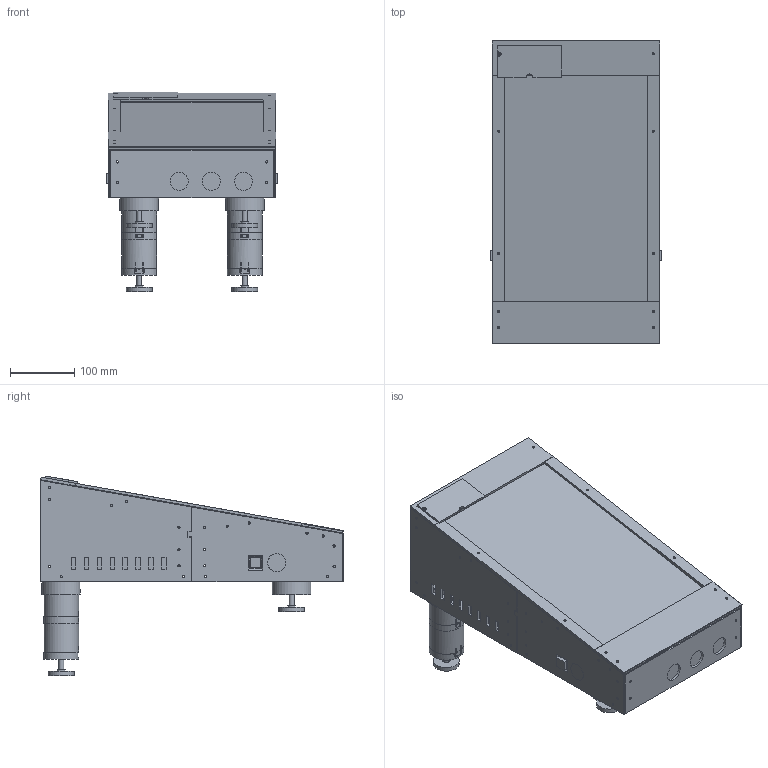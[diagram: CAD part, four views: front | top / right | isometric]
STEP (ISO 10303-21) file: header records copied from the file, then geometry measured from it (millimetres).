
FILE_DESCRIPTION(('Open CASCADE Model'),'2;1');
FILE_NAME('Open CASCADE Shape Model','2026-11-18T12:42:57',('Author'),( 'Open CASCADE'),'Open CASCADE STEP processor 7.8','Open CASCADE 7.8' ,'Unknown');
FILE_SCHEMA(('AUTOMOTIVE_DESIGN { 1 0 10303 214 1 1 1 1 }'));
Length unit declared in the file: millimetre
Products named in the file (97): Mini_VPin_Prototype_V1_20; left_front_wall; left_rear_wall; right_front_wall; right_rear_wall; front_button_panel; rear_vent_panel; corner_left_front_24; corner_left_front_56; corner_left_rear_24; corner_left_rear_128; corner_right_front_24; corner_right_front_56; corner_right_rear_24; corner_right_rear_128; splice_left; splice_right; floor_block_left_28; floor_block_left_218; floor_block_left_252; floor_block_left_442; floor_block_right_28; floor_block_right_218; floor_block_right_252; floor_block_right_442; bottom_front; bottom_rear; foot_backing_left_front; foot_receiver_left_front; REFERENCE_swivel_rubber_pad_left_front; foot_backing_left_rear; foot_receiver_left_rear; foot_m6_nut_clip_receiver_left_rear; foot_twist_core_left_rear_1_45mm; foot_lock_sleeve_left_rear_1_45mm; foot_bolt_key_left_rear_1_45mm; foot_m6_nut_clip_upper_left_rear_1_45mm; foot_m8_terminal_core_left_rear_55mm; foot_m8_terminal_sleeve_left_rear_55mm; foot_m8_terminal_bolt_key_left_rear_55mm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
Assembly tree (96 placements, depth 2):
  Mini_VPin_Prototype_V1_20
    left_front_wall
    left_rear_wall
    right_front_wall
    right_rear_wall
    front_button_panel
    rear_vent_panel
    corner_left_front_24
    corner_left_front_56
    corner_left_rear_24
    corner_left_rear_128
    corner_right_front_24
    corner_right_front_56
    corner_right_rear_24
    corner_right_rear_128
    splice_left
    splice_right
    floor_block_left_28
    floor_block_left_218
    floor_block_left_252
    floor_block_left_442
    floor_block_right_28
    floor_block_right_218
    floor_block_right_252
    floor_block_right_442
    bottom_front
    bottom_rear
    foot_backing_left_front
    foot_receiver_left_front
    REFERENCE_swivel_rubber_pad_left_front
    foot_backing_left_rear
    foot_receiver_left_rear
    foot_m6_nut_clip_receiver_left_rear
    foot_twist_core_left_rear_1_45mm
    foot_lock_sleeve_left_rear_1_45mm
    foot_bolt_key_left_rear_1_45mm
    foot_m6_nut_clip_upper_left_rear_1_45mm
    foot_m8_terminal_core_left_rear_55mm
    foot_m8_terminal_sleeve_left_rear_55mm
    foot_m8_terminal_bolt_key_left_rear_55mm
    foot_m8_nut_clip_terminal_left_rear
    REFERENCE_swivel_rubber_pad_left_rear
    foot_backing_right_front
    foot_receiver_right_front
    REFERENCE_swivel_rubber_pad_right_front
    foot_backing_right_rear
    foot_receiver_right_rear
    foot_m6_nut_clip_receiver_right_rear
    foot_twist_core_right_rear_1_45mm
    foot_lock_sleeve_right_rear_1_45mm
    foot_bolt_key_right_rear_1_45mm
    foot_m6_nut_clip_upper_right_rear_1_45mm
    foot_m8_terminal_core_right_rear_55mm
    foot_m8_terminal_sleeve_right_rear_55mm
    foot_m8_terminal_bolt_key_right_rear_55mm
    foot_m8_nut_clip_terminal_right_rear
    REFERENCE_swivel_rubber_pad_right_rear
    top_block_left_25
    top_block_left_50
    top_block_left_140
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Bounding box: 267 x 470.54 x 310.59 mm (x, y, z)
Volume: 7974270.1 mm3; surface area: 1617988.9 mm2
Topology: 96 solids, 96 shells, 2073 faces, 5225 edges, 3470 vertices
Faces by surface type: plane 1732, cylinder 315, extrusion 20, bspline 4, cone 2
Full cylindrical faces by diameter (mm): 3.4 x158, 4.5 x4, 5.5 x48, 6 x2, 6.4 x2, 6.7 x12, 8 x4, 8.7 x4, 9 x2, 12 x4, 17 x16, 27.8 x2, 28 x5, 40 x6, 50 x4, 54 x8, 60 x4
Entity records: 141945 total; most frequent: CARTESIAN_POINT 34906, DIRECTION 18513, VECTOR 12175, LINE 12155, ORIENTED_EDGE 10450, PCURVE 10450, DEFINITIONAL_REPRESENTATION 10450, EDGE_CURVE 5225
